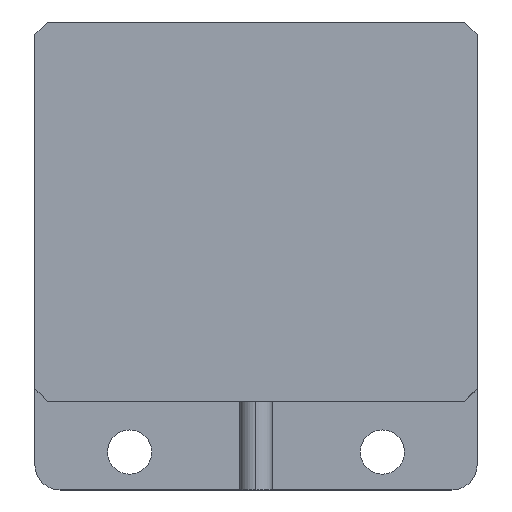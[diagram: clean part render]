
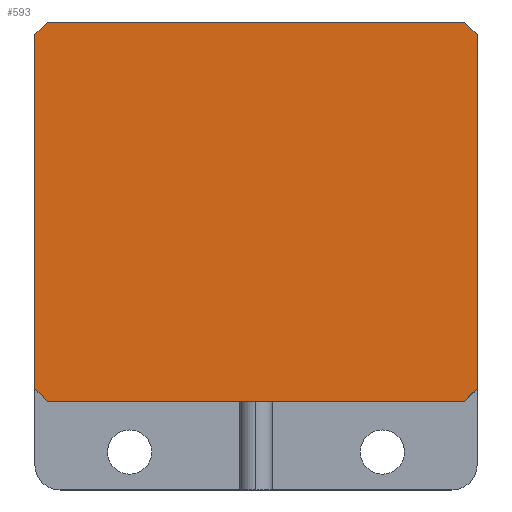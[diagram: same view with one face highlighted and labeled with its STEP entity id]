
A CAD part, top view. The second image highlights one B-rep face of the part: STEP entity #593.
In plain terms, the highlighted planar face has unit normal (0, 0, 1).
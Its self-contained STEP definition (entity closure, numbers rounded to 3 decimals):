
#49 = DIRECTION ( 'NONE',  ( 1., 0., 0. ) ) ;
#57 = EDGE_CURVE ( 'NONE', #263, #949, #447, .T. ) ;
#106 = CARTESIAN_POINT ( 'NONE',  ( 16.5, -15., 14. ) ) ;
#109 = VERTEX_POINT ( 'NONE', #1114 ) ;
#141 = CARTESIAN_POINT ( 'NONE',  ( 17.5, 14., 14. ) ) ;
#147 = CARTESIAN_POINT ( 'NONE',  ( 17.5, -14., 14. ) ) ;
#148 = CARTESIAN_POINT ( 'NONE',  ( 15.75, 15.75, 14. ) ) ;
#172 = DIRECTION ( 'NONE',  ( 1., 0., 0. ) ) ;
#181 = FACE_OUTER_BOUND ( 'NONE', #419, .T. ) ;
#199 = CARTESIAN_POINT ( 'NONE',  ( -15.75, -15.75, 14. ) ) ;
#212 = ORIENTED_EDGE ( 'NONE', *, *, #605, .T. ) ;
#223 = ORIENTED_EDGE ( 'NONE', *, *, #1085, .T. ) ;
#224 = VECTOR ( 'NONE', #702, 1000. ) ;
#257 = CARTESIAN_POINT ( 'NONE',  ( 17.5, 15., 14. ) ) ;
#263 = VERTEX_POINT ( 'NONE', #282 ) ;
#282 = CARTESIAN_POINT ( 'NONE',  ( -17.5, -14., 14. ) ) ;
#342 = ORIENTED_EDGE ( 'NONE', *, *, #830, .T. ) ;
#346 = DIRECTION ( 'NONE',  ( 0., 1., 0. ) ) ;
#393 = ORIENTED_EDGE ( 'NONE', *, *, #1060, .T. ) ;
#407 = CARTESIAN_POINT ( 'NONE',  ( -17.5, 15., 14. ) ) ;
#411 = LINE ( 'NONE', #148, #1066 ) ;
#414 = VECTOR ( 'NONE', #839, 1000. ) ;
#419 = EDGE_LOOP ( 'NONE', ( #481, #393, #223, #212, #1037, #342, #1131, #502 ) ) ;
#428 = VECTOR ( 'NONE', #172, 1000. ) ;
#447 = LINE ( 'NONE', #199, #414 ) ;
#448 = VECTOR ( 'NONE', #1137, 1000. ) ;
#452 = VERTEX_POINT ( 'NONE', #141 ) ;
#470 = LINE ( 'NONE', #257, #1154 ) ;
#481 = ORIENTED_EDGE ( 'NONE', *, *, #780, .T. ) ;
#502 = ORIENTED_EDGE ( 'NONE', *, *, #57, .T. ) ;
#512 = VERTEX_POINT ( 'NONE', #755 ) ;
#579 = EDGE_CURVE ( 'NONE', #109, #512, #1133, .T. ) ;
#593 = ADVANCED_FACE ( 'NONE', ( #181 ), #766, .T. ) ;
#605 = EDGE_CURVE ( 'NONE', #452, #109, #411, .T. ) ;
#607 = CARTESIAN_POINT ( 'NONE',  ( 15.75, -15.75, 14. ) ) ;
#660 = LINE ( 'NONE', #784, #428 ) ;
#679 = DIRECTION ( 'NONE',  ( 0., 0., 1. ) ) ;
#681 = VECTOR ( 'NONE', #884, 1000. ) ;
#683 = CARTESIAN_POINT ( 'NONE',  ( -17.5, 15., 14. ) ) ;
#702 = DIRECTION ( 'NONE',  ( 0.707, 0.707, 0. ) ) ;
#718 = VERTEX_POINT ( 'NONE', #761 ) ;
#741 = VERTEX_POINT ( 'NONE', #147 ) ;
#755 = CARTESIAN_POINT ( 'NONE',  ( -16.5, 15., 14. ) ) ;
#761 = CARTESIAN_POINT ( 'NONE',  ( -17.5, 14., 14. ) ) ;
#766 = PLANE ( 'NONE',  #928 ) ;
#780 = EDGE_CURVE ( 'NONE', #949, #886, #660, .T. ) ;
#784 = CARTESIAN_POINT ( 'NONE',  ( -17.5, -15., 14. ) ) ;
#830 = EDGE_CURVE ( 'NONE', #512, #718, #905, .T. ) ;
#839 = DIRECTION ( 'NONE',  ( 0.707, -0.707, 0. ) ) ;
#872 = VECTOR ( 'NONE', #1046, 1000. ) ;
#884 = DIRECTION ( 'NONE',  ( -0.707, -0.707, 0. ) ) ;
#886 = VERTEX_POINT ( 'NONE', #106 ) ;
#905 = LINE ( 'NONE', #975, #681 ) ;
#924 = LINE ( 'NONE', #607, #224 ) ;
#928 = AXIS2_PLACEMENT_3D ( 'NONE', #939, #679, #49 ) ;
#939 = CARTESIAN_POINT ( 'NONE',  ( 0., 0., 14. ) ) ;
#949 = VERTEX_POINT ( 'NONE', #1023 ) ;
#975 = CARTESIAN_POINT ( 'NONE',  ( -15.75, 15.75, 14. ) ) ;
#1023 = CARTESIAN_POINT ( 'NONE',  ( -16.5, -15., 14. ) ) ;
#1029 = DIRECTION ( 'NONE',  ( -0.707, 0.707, 0. ) ) ;
#1037 = ORIENTED_EDGE ( 'NONE', *, *, #579, .T. ) ;
#1046 = DIRECTION ( 'NONE',  ( 0., -1., 0. ) ) ;
#1060 = EDGE_CURVE ( 'NONE', #886, #741, #924, .T. ) ;
#1066 = VECTOR ( 'NONE', #1029, 1000. ) ;
#1085 = EDGE_CURVE ( 'NONE', #741, #452, #470, .T. ) ;
#1108 = EDGE_CURVE ( 'NONE', #718, #263, #1121, .T. ) ;
#1114 = CARTESIAN_POINT ( 'NONE',  ( 16.5, 15., 14. ) ) ;
#1121 = LINE ( 'NONE', #407, #872 ) ;
#1131 = ORIENTED_EDGE ( 'NONE', *, *, #1108, .T. ) ;
#1133 = LINE ( 'NONE', #683, #448 ) ;
#1137 = DIRECTION ( 'NONE',  ( -1., 0., 0. ) ) ;
#1154 = VECTOR ( 'NONE', #346, 1000. ) ;
